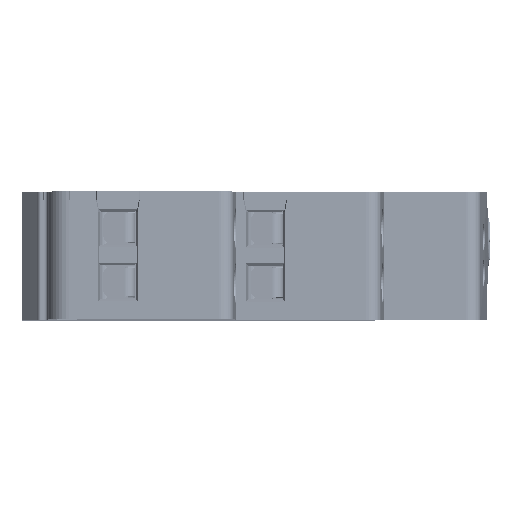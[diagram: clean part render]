
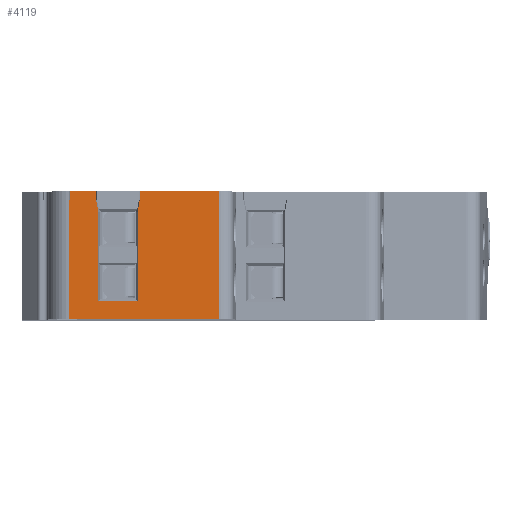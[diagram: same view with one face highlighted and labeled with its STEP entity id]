
A CAD part, top view. The second image highlights one B-rep face of the part: STEP entity #4119.
In plain terms, the highlighted planar face has unit normal (0, 0, 1).
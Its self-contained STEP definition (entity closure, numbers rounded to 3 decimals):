
#4003=AXIS2_PLACEMENT_3D('Plane Axis2P3D',#4000,#4001,#4002) ;
#2495=CARTESIAN_POINT('Vertex',(-35.882,0.,42.5)) ;
#2498=CARTESIAN_POINT('Line Origine',(-46.291,0.,42.5)) ;
#2502=CARTESIAN_POINT('Vertex',(-56.7,0.,42.5)) ;
#3978=CARTESIAN_POINT('Vertex',(-35.882,17.8,42.5)) ;
#3981=CARTESIAN_POINT('Line Origine',(-35.882,0.6,42.5)) ;
#4000=CARTESIAN_POINT('Axis2P3D Location',(-56.7,0.,42.5)) ;
#4005=CARTESIAN_POINT('Line Origine',(-54.8,17.8,42.5)) ;
#4009=CARTESIAN_POINT('Vertex',(-53.,17.8,42.5)) ;
#4011=CARTESIAN_POINT('Vertex',(-56.6,17.8,42.5)) ;
#4014=CARTESIAN_POINT('Line Origine',(-56.6,17.2,42.5)) ;
#4018=CARTESIAN_POINT('Vertex',(-56.6,16.6,42.5)) ;
#4021=CARTESIAN_POINT('Line Origine',(-56.65,16.6,42.5)) ;
#4025=CARTESIAN_POINT('Vertex',(-56.7,16.6,42.5)) ;
#4028=CARTESIAN_POINT('Line Origine',(-56.7,8.3,42.5)) ;
#4033=CARTESIAN_POINT('Line Origine',(-41.391,17.8,42.5)) ;
#4037=CARTESIAN_POINT('Vertex',(-46.9,17.8,42.5)) ;
#4040=CARTESIAN_POINT('Line Origine',(-46.9,17.2,42.5)) ;
#4044=CARTESIAN_POINT('Vertex',(-46.9,16.6,42.5)) ;
#4047=CARTESIAN_POINT('Line Origine',(-46.911,16.6,42.5)) ;
#4051=CARTESIAN_POINT('Vertex',(-46.921,16.6,42.5)) ;
#4054=CARTESIAN_POINT('Line Origine',(-47.077,15.8,42.5)) ;
#4058=CARTESIAN_POINT('Vertex',(-47.232,15.,42.5)) ;
#4061=CARTESIAN_POINT('Line Origine',(-47.232,8.75,42.5)) ;
#4065=CARTESIAN_POINT('Vertex',(-47.232,2.5,42.5)) ;
#4068=CARTESIAN_POINT('Line Origine',(-49.95,2.5,42.5)) ;
#4072=CARTESIAN_POINT('Vertex',(-52.668,2.5,42.5)) ;
#4075=CARTESIAN_POINT('Line Origine',(-52.668,8.75,42.5)) ;
#4079=CARTESIAN_POINT('Vertex',(-52.668,15.,42.5)) ;
#4082=CARTESIAN_POINT('Line Origine',(-52.823,15.8,42.5)) ;
#4086=CARTESIAN_POINT('Vertex',(-52.979,16.6,42.5)) ;
#4089=CARTESIAN_POINT('Line Origine',(-52.989,16.6,42.5)) ;
#4093=CARTESIAN_POINT('Vertex',(-53.,16.6,42.5)) ;
#4096=CARTESIAN_POINT('Line Origine',(-53.,17.2,42.5)) ;
#2499=DIRECTION('Vector Direction',(1.,0.,0.)) ;
#3982=DIRECTION('Vector Direction',(0.,1.,0.)) ;
#4001=DIRECTION('Axis2P3D Direction',(0.,0.,1.)) ;
#4002=DIRECTION('Axis2P3D XDirection',(1.,0.,0.)) ;
#4006=DIRECTION('Vector Direction',(1.,0.,0.)) ;
#4015=DIRECTION('Vector Direction',(0.,1.,0.)) ;
#4022=DIRECTION('Vector Direction',(1.,0.,0.)) ;
#4029=DIRECTION('Vector Direction',(0.,1.,0.)) ;
#4034=DIRECTION('Vector Direction',(1.,0.,0.)) ;
#4041=DIRECTION('Vector Direction',(0.,1.,0.)) ;
#4048=DIRECTION('Vector Direction',(1.,0.,0.)) ;
#4055=DIRECTION('Vector Direction',(-0.191,-0.982,0.)) ;
#4062=DIRECTION('Vector Direction',(0.,-1.,0.)) ;
#4069=DIRECTION('Vector Direction',(-1.,0.,0.)) ;
#4076=DIRECTION('Vector Direction',(0.,-1.,0.)) ;
#4083=DIRECTION('Vector Direction',(0.191,-0.982,0.)) ;
#4090=DIRECTION('Vector Direction',(1.,0.,0.)) ;
#4097=DIRECTION('Vector Direction',(0.,1.,0.)) ;
#2500=VECTOR('Line Direction',#2499,1.) ;
#3983=VECTOR('Line Direction',#3982,1.) ;
#4007=VECTOR('Line Direction',#4006,1.) ;
#4016=VECTOR('Line Direction',#4015,1.) ;
#4023=VECTOR('Line Direction',#4022,1.) ;
#4030=VECTOR('Line Direction',#4029,1.) ;
#4035=VECTOR('Line Direction',#4034,1.) ;
#4042=VECTOR('Line Direction',#4041,1.) ;
#4049=VECTOR('Line Direction',#4048,1.) ;
#4056=VECTOR('Line Direction',#4055,1.) ;
#4063=VECTOR('Line Direction',#4062,1.) ;
#4070=VECTOR('Line Direction',#4069,1.) ;
#4077=VECTOR('Line Direction',#4076,1.) ;
#4084=VECTOR('Line Direction',#4083,1.) ;
#4091=VECTOR('Line Direction',#4090,1.) ;
#4098=VECTOR('Line Direction',#4097,1.) ;
#4102=ORIENTED_EDGE('',*,*,#4013,.T.) ;
#4103=ORIENTED_EDGE('',*,*,#4020,.F.) ;
#4104=ORIENTED_EDGE('',*,*,#4027,.F.) ;
#4105=ORIENTED_EDGE('',*,*,#4032,.F.) ;
#4106=ORIENTED_EDGE('',*,*,#2504,.T.) ;
#4107=ORIENTED_EDGE('',*,*,#3985,.T.) ;
#4108=ORIENTED_EDGE('',*,*,#4039,.T.) ;
#4109=ORIENTED_EDGE('',*,*,#4046,.F.) ;
#4110=ORIENTED_EDGE('',*,*,#4053,.F.) ;
#4111=ORIENTED_EDGE('',*,*,#4060,.F.) ;
#4112=ORIENTED_EDGE('',*,*,#4067,.F.) ;
#4113=ORIENTED_EDGE('',*,*,#4074,.F.) ;
#4114=ORIENTED_EDGE('',*,*,#4081,.F.) ;
#4115=ORIENTED_EDGE('',*,*,#4088,.F.) ;
#4116=ORIENTED_EDGE('',*,*,#4095,.F.) ;
#4117=ORIENTED_EDGE('',*,*,#4100,.T.) ;
#4119=ADVANCED_FACE('INVOLUCRO_3_MOR',(#4118),#4004,.T.) ;
#2504=EDGE_CURVE('',#2503,#2496,#2501,.T.) ;
#3985=EDGE_CURVE('',#2496,#3979,#3984,.T.) ;
#4013=EDGE_CURVE('',#4010,#4012,#4008,.F.) ;
#4020=EDGE_CURVE('',#4019,#4012,#4017,.T.) ;
#4027=EDGE_CURVE('',#4026,#4019,#4024,.T.) ;
#4032=EDGE_CURVE('',#2503,#4026,#4031,.T.) ;
#4039=EDGE_CURVE('',#3979,#4038,#4036,.F.) ;
#4046=EDGE_CURVE('',#4045,#4038,#4043,.T.) ;
#4053=EDGE_CURVE('',#4052,#4045,#4050,.T.) ;
#4060=EDGE_CURVE('',#4059,#4052,#4057,.F.) ;
#4067=EDGE_CURVE('',#4066,#4059,#4064,.F.) ;
#4074=EDGE_CURVE('',#4073,#4066,#4071,.F.) ;
#4081=EDGE_CURVE('',#4080,#4073,#4078,.T.) ;
#4088=EDGE_CURVE('',#4087,#4080,#4085,.T.) ;
#4095=EDGE_CURVE('',#4094,#4087,#4092,.T.) ;
#4100=EDGE_CURVE('',#4094,#4010,#4099,.T.) ;
#4101=EDGE_LOOP('',(#4102,#4103,#4104,#4105,#4106,#4107,#4108,#4109,#4110,#4111,#4112,#4113,#4114,#4115,#4116,#4117)) ;
#4118=FACE_OUTER_BOUND('',#4101,.T.) ;
#2501=LINE('Line',#2498,#2500) ;
#3984=LINE('Line',#3981,#3983) ;
#4008=LINE('Line',#4005,#4007) ;
#4017=LINE('Line',#4014,#4016) ;
#4024=LINE('Line',#4021,#4023) ;
#4031=LINE('Line',#4028,#4030) ;
#4036=LINE('Line',#4033,#4035) ;
#4043=LINE('Line',#4040,#4042) ;
#4050=LINE('Line',#4047,#4049) ;
#4057=LINE('Line',#4054,#4056) ;
#4064=LINE('Line',#4061,#4063) ;
#4071=LINE('Line',#4068,#4070) ;
#4078=LINE('Line',#4075,#4077) ;
#4085=LINE('Line',#4082,#4084) ;
#4092=LINE('Line',#4089,#4091) ;
#4099=LINE('Line',#4096,#4098) ;
#4004=PLANE('',#4003) ;
#2496=VERTEX_POINT('',#2495) ;
#2503=VERTEX_POINT('',#2502) ;
#3979=VERTEX_POINT('',#3978) ;
#4010=VERTEX_POINT('',#4009) ;
#4012=VERTEX_POINT('',#4011) ;
#4019=VERTEX_POINT('',#4018) ;
#4026=VERTEX_POINT('',#4025) ;
#4038=VERTEX_POINT('',#4037) ;
#4045=VERTEX_POINT('',#4044) ;
#4052=VERTEX_POINT('',#4051) ;
#4059=VERTEX_POINT('',#4058) ;
#4066=VERTEX_POINT('',#4065) ;
#4073=VERTEX_POINT('',#4072) ;
#4080=VERTEX_POINT('',#4079) ;
#4087=VERTEX_POINT('',#4086) ;
#4094=VERTEX_POINT('',#4093) ;
